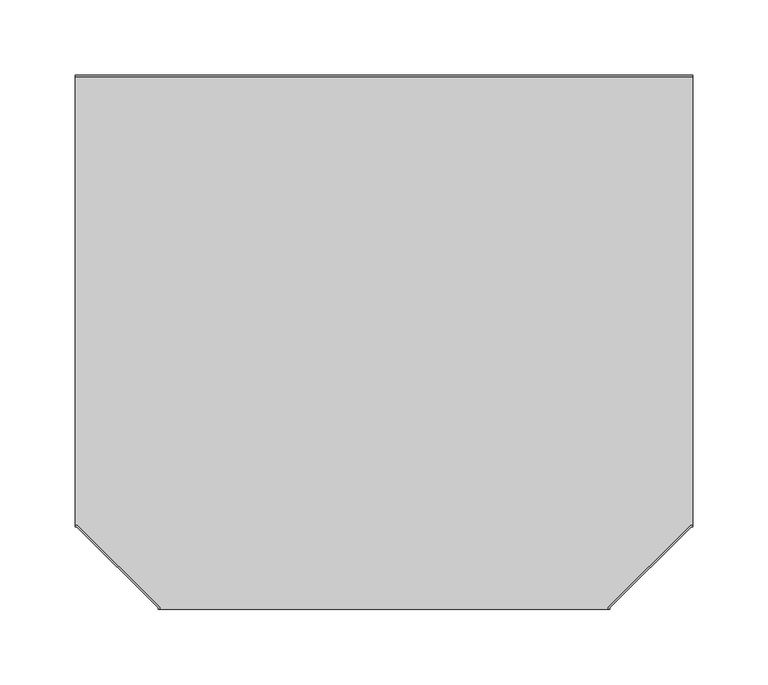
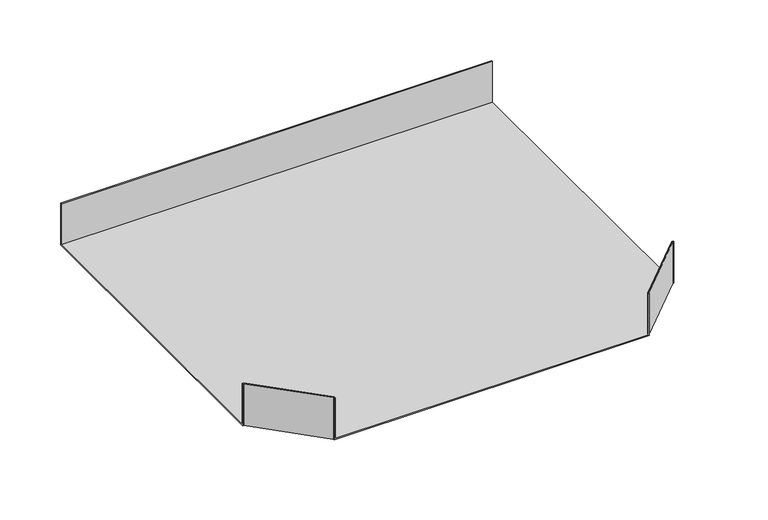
"""IFC4 building model written with IfcOpenShell, lengths in millimetres: cable carrier fitting geometry, BAKS_Horizontal tee : TKL_H42."""

from ifc_helpers import new_model, si_unit, origin, place, context, project, spatial, faceted_brep, source, transform, mapped, element, save


def cable_carrier_fitting_9cc64f74(model_context):
    return source(origin(), model_context, "Body", "Brep", [
        faceted_brep([(-149.0, -203.5857864, 21.0), (-203.5857864, -149.0, 21.0), (-205.0, -149.0, 21.0), (-205.0, -150.0, 21.0), (-204.0, -150.0, 21.0), (-150.0, -204.0, 21.0), (-150.0, -205.0, 21.0), (-149.0, -205.0, 21.0), (149.0, -203.5857864, 21.0), (149.0, -205.0, 21.0), (150.0, -205.0, 21.0), (150.0, -204.0, 21.0), (204.0, -150.0, 21.0), (205.0, -150.0, 21.0), (205.0, -149.0, 21.0), (203.5857864, -149.0, 21.0), (205.0, 150.0, 21.0), (-205.0, 150.0, 21.0), (-205.0, 149.0, 21.0), (205.0, 149.0, 21.0), (-150.0, -205.0, -21.0), (-150.0, -204.0, -21.0), (-204.0, -150.0, -21.0), (-205.0, -150.0, -21.0), (-205.0, 150.0, -21.0), (205.0, 150.0, -21.0), (205.0, -150.0, -21.0), (204.0, -150.0, -21.0), (150.0, -204.0, -21.0), (150.0, -205.0, -21.0), (-149.0, -203.5857864, -20.0), (-203.5857864, -149.0, -20.0), (-205.0, -149.0, -20.0), (-205.0, 149.0, -20.0), (-204.0, -150.0, -20.0), (-150.0, -204.0, -20.0), (149.0, -205.0, -20.0), (-149.0, -205.0, -20.0), (150.0, -204.0, -20.0), (204.0, -150.0, -20.0), (205.0, 149.0, -20.0), (205.0, -149.0, -20.0), (203.5857864, -149.0, -20.0), (149.0, -203.5857864, -20.0)], [[[0, 1, 2, 3, 4, 5, 6, 7]], [[8, 9, 10, 11, 12, 13, 14, 15]], [[16, 17, 18, 19]], [[20, 21, 22, 23, 24, 25, 26, 27, 28, 29]], [[1, 0, 30, 31]], [[2, 1, 31, 32]], [[3, 2, 32, 33, 18, 17, 24, 23]], [[4, 3, 23, 22, 34]], [[5, 4, 34, 22, 21, 35]], [[20, 6, 5, 35, 21]], [[7, 6, 20, 29, 10, 9, 36, 37]], [[0, 7, 37, 30]], [[12, 11, 38, 28, 27, 39]], [[26, 13, 12, 39, 27]], [[14, 13, 26, 25, 16, 19, 40, 41]], [[15, 14, 41, 42]], [[8, 15, 42, 43]], [[9, 8, 43, 36]], [[11, 10, 29, 28, 38]], [[24, 17, 16, 25]], [[19, 18, 33, 40]], [[37, 36, 43, 42, 41, 40, 33, 32, 31, 30]]]),
    ])


if __name__ == "__main__":
    model = new_model("IFC4")
    model_context = context("Model", 3, world=origin())
    ifc_project = project(units=[si_unit("LENGTHUNIT", "METRE", prefix="MILLI")], contexts=[model_context])
    site = spatial("IfcSite", under=ifc_project)
    building = spatial("IfcBuilding", under=site)
    placement = place(None, origin())
    cable_carrier_fitting_shape = cable_carrier_fitting_9cc64f74(model_context)
    element("IfcCableCarrierFitting", 1, ObjectType="BAKS_Horizontal tee : TKL_H42", at=placement, inside=building, context=model_context, shape_type="MappedRepresentation", body=[
        mapped(cable_carrier_fitting_shape, transform((0.0, 0.0, 0.0), x_axis=(1.0, 0.0, 0.0), y_axis=(0.0, 1.0, 0.0), z_axis=(0.0, 0.0, 1.0))),
    ])
    save(model, "model.ifc")
